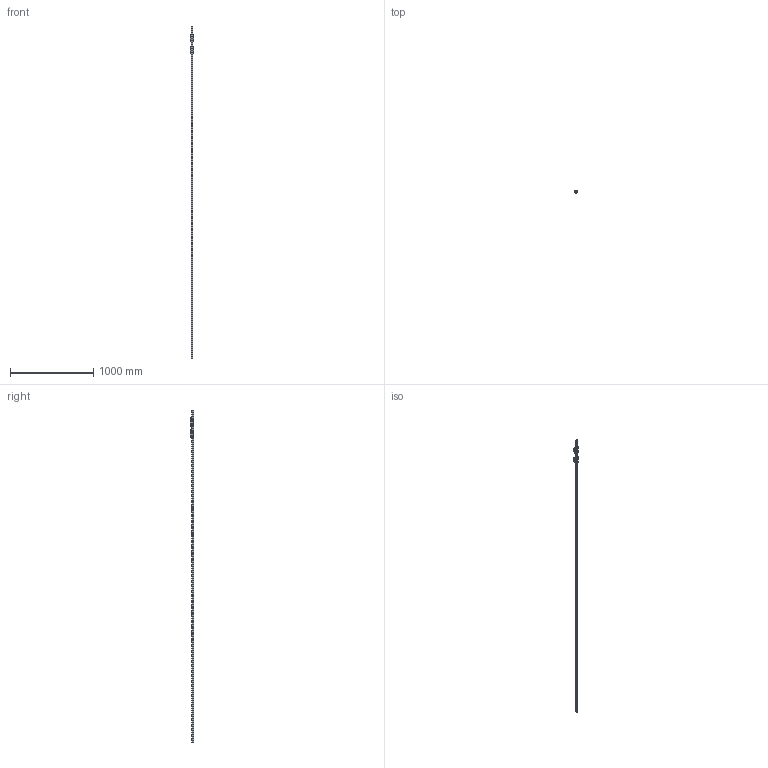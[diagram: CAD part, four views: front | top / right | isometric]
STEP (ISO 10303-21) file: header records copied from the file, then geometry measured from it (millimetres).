
FILE_DESCRIPTION((''),'2;1');
FILE_NAME('BRS25-R0_CUSTOMER_ASM_ASM_ASM','2020-11-24T13:07:49',('TWVS2025'),(''),'CREO PARAMETRIC BY PTC INC, 2018420','CREO PARAMETRIC BY PTC INC, 2018420','');
FILE_SCHEMA(('CONFIG_CONTROL_DESIGN'));
Products named in the file (6): BC-BRC25-R0_ASM_1_1; BRS25-R0_CUSTOMER_ASM_1_ASM_1_ASM; BRR25_CUSTOMER_1_1_1_2_3_4; BC_BRD25-R0_ASM_ASM_1_ASM; BRS25-R0_CUSTOMER_ASM_ASM_1_ASM; BRS25-R0_CUSTOMER_ASM_ASM_ASM
Assembly tree (5 placements, depth 4):
  BRS25-R0_CUSTOMER_ASM_ASM_ASM
    BRS25-R0_CUSTOMER_ASM_ASM_1_ASM
      BRS25-R0_CUSTOMER_ASM_1_ASM_1_ASM
        BC-BRC25-R0_ASM_1_1
      BRR25_CUSTOMER_1_1_1_2_3_4
      BC_BRD25-R0_ASM_ASM_1_ASM
Bounding box: 47.95 x 40 x 4000 mm (x, y, z)
Volume: 1774133 mm3; surface area: 487309 mm2
Topology: 2 solids, 23 shells, 4898 faces, 14125 edges, 9297 vertices
Faces by surface type: plane 2811, cylinder 1419, bspline 240, cone 192, torus 158, sphere 78
Entity records: 227929 total; most frequent: CARTESIAN_POINT 102055, ORIENTED_EDGE 28046, DIRECTION 23589, EDGE_CURVE 14061, VERTEX_POINT 9293, VECTOR 8669, LINE 8669, AXIS2_PLACEMENT_3D 7460
